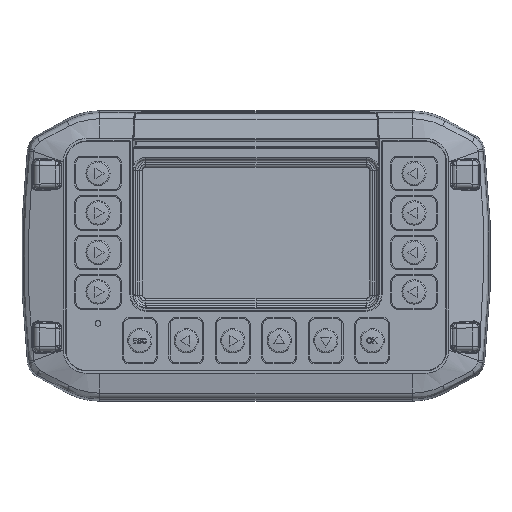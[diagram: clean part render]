
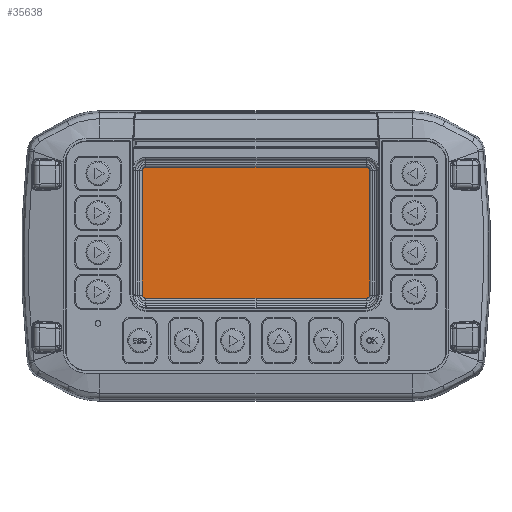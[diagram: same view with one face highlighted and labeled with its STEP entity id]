
A CAD part, top view. The second image highlights one B-rep face of the part: STEP entity #35638.
In plain terms, the highlighted planar face has unit normal (0, 0, 1).
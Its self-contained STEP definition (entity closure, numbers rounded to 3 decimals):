
#338 = ORIENTED_EDGE ( 'NONE', *, *, #36211, .F. ) ;
#1882 = DIRECTION ( 'NONE',  ( -1., 0., 0. ) ) ;
#1901 = VECTOR ( 'NONE', #2864, 1000. ) ;
#2415 = LINE ( 'NONE', #27118, #9485 ) ;
#2794 = CARTESIAN_POINT ( 'NONE',  ( -79.363, 46.866, 11.8 ) ) ;
#2864 = DIRECTION ( 'NONE',  ( -1., 0., 0. ) ) ;
#3516 = CARTESIAN_POINT ( 'NONE',  ( 48.876, -16.84, 11.8 ) ) ;
#3842 = AXIS2_PLACEMENT_3D ( 'NONE', #27104, #9042, #30117 ) ;
#3993 = AXIS2_PLACEMENT_3D ( 'NONE', #32709, #14635, #35734 ) ;
#4424 = AXIS2_PLACEMENT_3D ( 'NONE', #28971, #10926, #32007 ) ;
#4757 = CARTESIAN_POINT ( 'NONE',  ( 48.876, 36.84, 11.8 ) ) ;
#5367 = CARTESIAN_POINT ( 'NONE',  ( 48.876, -16.84, 11.8 ) ) ;
#5809 = DIRECTION ( 'NONE',  ( -1., 0., 0. ) ) ;
#5987 = LINE ( 'NONE', #38291, #37078 ) ;
#6019 = DIRECTION ( 'NONE',  ( 1., 0., 0. ) ) ;
#6569 = VERTEX_POINT ( 'NONE', #7143 ) ;
#7143 = CARTESIAN_POINT ( 'NONE',  ( -48.876, -16.84, 11.8 ) ) ;
#7205 = VERTEX_POINT ( 'NONE', #25162 ) ;
#8706 = CIRCLE ( 'NONE', #25229, 1.441 ) ;
#9042 = DIRECTION ( 'NONE',  ( 0., 0., -1. ) ) ;
#9408 = CIRCLE ( 'NONE', #4424, 1.441 ) ;
#9485 = VECTOR ( 'NONE', #6019, 1000. ) ;
#10926 = DIRECTION ( 'NONE',  ( 0., 0., -1. ) ) ;
#12194 = VERTEX_POINT ( 'NONE', #28849 ) ;
#12681 = EDGE_CURVE ( 'NONE', #6569, #7205, #5987, .T. ) ;
#14184 = VERTEX_POINT ( 'NONE', #39022 ) ;
#14635 = DIRECTION ( 'NONE',  ( 0., 0., -1. ) ) ;
#14855 = EDGE_CURVE ( 'NONE', #27881, #37324, #15299, .T. ) ;
#15299 = LINE ( 'NONE', #5367, #38405 ) ;
#15656 = ORIENTED_EDGE ( 'NONE', *, *, #38039, .F. ) ;
#16614 = CARTESIAN_POINT ( 'NONE',  ( -47.435, 38.281, 11.8 ) ) ;
#18690 = VERTEX_POINT ( 'NONE', #16614 ) ;
#19868 = DIRECTION ( 'NONE',  ( 0., 0., -1. ) ) ;
#20462 = EDGE_CURVE ( 'NONE', #7205, #18690, #9408, .T. ) ;
#21957 = CIRCLE ( 'NONE', #3993, 1.441 ) ;
#23832 = DIRECTION ( 'NONE',  ( 0., 0., -1. ) ) ;
#24678 = EDGE_CURVE ( 'NONE', #37324, #12194, #25546, .T. ) ;
#25162 = CARTESIAN_POINT ( 'NONE',  ( -48.876, 36.84, 11.8 ) ) ;
#25229 = AXIS2_PLACEMENT_3D ( 'NONE', #37911, #19868, #1882 ) ;
#25342 = ORIENTED_EDGE ( 'NONE', *, *, #31919, .F. ) ;
#25546 = CIRCLE ( 'NONE', #3842, 1.441 ) ;
#26441 = DIRECTION ( 'NONE',  ( 0., -1., 0. ) ) ;
#26592 = ORIENTED_EDGE ( 'NONE', *, *, #14855, .F. ) ;
#27104 = CARTESIAN_POINT ( 'NONE',  ( 47.435, -16.84, 11.8 ) ) ;
#27118 = CARTESIAN_POINT ( 'NONE',  ( -47.435, 38.281, 11.8 ) ) ;
#27611 = EDGE_LOOP ( 'NONE', ( #338, #25342, #38545, #26592, #15656, #36899, #33877, #31129 ) ) ;
#27817 = LINE ( 'NONE', #38931, #1901 ) ;
#27881 = VERTEX_POINT ( 'NONE', #4757 ) ;
#28652 = DIRECTION ( 'NONE',  ( 0., 1., 0. ) ) ;
#28849 = CARTESIAN_POINT ( 'NONE',  ( 47.435, -18.281, 11.8 ) ) ;
#28971 = CARTESIAN_POINT ( 'NONE',  ( -47.435, 36.84, 11.8 ) ) ;
#29778 = PLANE ( 'NONE',  #34489 ) ;
#30117 = DIRECTION ( 'NONE',  ( -1., 0., 0. ) ) ;
#30280 = EDGE_CURVE ( 'NONE', #18690, #35443, #2415, .T. ) ;
#31129 = ORIENTED_EDGE ( 'NONE', *, *, #12681, .F. ) ;
#31328 = CARTESIAN_POINT ( 'NONE',  ( 47.435, 38.281, 11.8 ) ) ;
#31919 = EDGE_CURVE ( 'NONE', #12194, #14184, #27817, .T. ) ;
#32007 = DIRECTION ( 'NONE',  ( -1., 0., 0. ) ) ;
#32709 = CARTESIAN_POINT ( 'NONE',  ( -47.435, -16.84, 11.8 ) ) ;
#32842 = FACE_OUTER_BOUND ( 'NONE', #27611, .T. ) ;
#33877 = ORIENTED_EDGE ( 'NONE', *, *, #20462, .F. ) ;
#34489 = AXIS2_PLACEMENT_3D ( 'NONE', #2794, #23832, #5809 ) ;
#35443 = VERTEX_POINT ( 'NONE', #31328 ) ;
#35638 = ADVANCED_FACE ( 'NONE', ( #32842 ), #29778, .F. ) ;
#35734 = DIRECTION ( 'NONE',  ( -1., 0., 0. ) ) ;
#36211 = EDGE_CURVE ( 'NONE', #14184, #6569, #21957, .T. ) ;
#36899 = ORIENTED_EDGE ( 'NONE', *, *, #30280, .F. ) ;
#37078 = VECTOR ( 'NONE', #28652, 1000. ) ;
#37324 = VERTEX_POINT ( 'NONE', #3516 ) ;
#37911 = CARTESIAN_POINT ( 'NONE',  ( 47.435, 36.84, 11.8 ) ) ;
#38039 = EDGE_CURVE ( 'NONE', #35443, #27881, #8706, .T. ) ;
#38291 = CARTESIAN_POINT ( 'NONE',  ( -48.876, -16.84, 11.8 ) ) ;
#38405 = VECTOR ( 'NONE', #26441, 1000. ) ;
#38545 = ORIENTED_EDGE ( 'NONE', *, *, #24678, .F. ) ;
#38931 = CARTESIAN_POINT ( 'NONE',  ( -47.435, -18.281, 11.8 ) ) ;
#39022 = CARTESIAN_POINT ( 'NONE',  ( -47.435, -18.281, 11.8 ) ) ;
